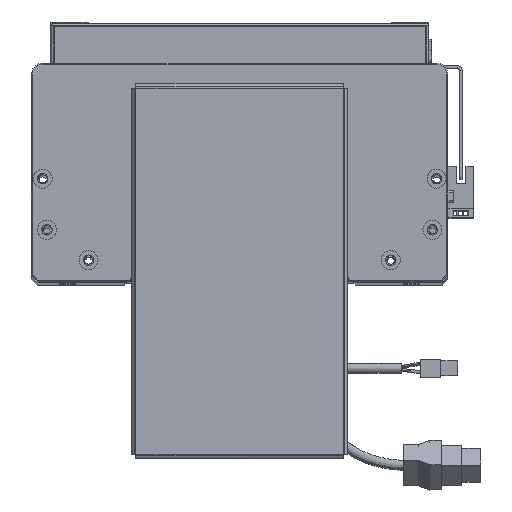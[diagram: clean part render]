
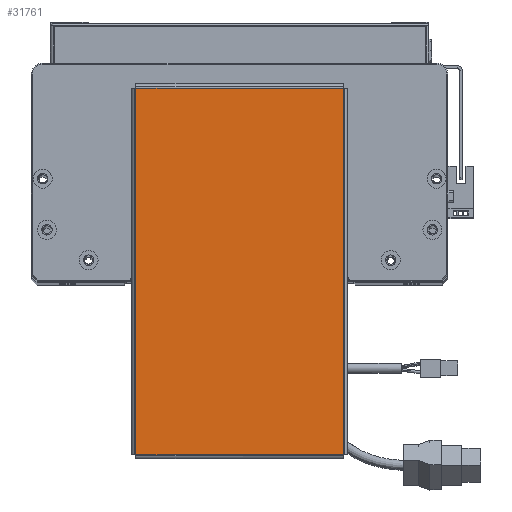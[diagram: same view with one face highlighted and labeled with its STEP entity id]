
A CAD part, top view. The second image highlights one B-rep face of the part: STEP entity #31761.
In plain terms, the highlighted planar face has unit normal (0, 0, 1).
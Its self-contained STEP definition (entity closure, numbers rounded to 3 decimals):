
#774 = PLANE ( 'NONE',  #42458 ) ;
#1608 = CARTESIAN_POINT ( 'NONE',  ( 96.763, -54.793, 0. ) ) ;
#1907 = VERTEX_POINT ( 'NONE', #57150 ) ;
#2406 = ORIENTED_EDGE ( 'NONE', *, *, #3737, .T. ) ;
#3737 = EDGE_CURVE ( 'NONE', #34910, #1907, #38906, .T. ) ;
#4618 = VERTEX_POINT ( 'NONE', #55571 ) ;
#5792 = CARTESIAN_POINT ( 'NONE',  ( 0., 0., 0. ) ) ;
#6522 = VERTEX_POINT ( 'NONE', #60758 ) ;
#9792 = DIRECTION ( 'NONE',  ( 0., -1., 0. ) ) ;
#10631 = DIRECTION ( 'NONE',  ( 0., 0., 1. ) ) ;
#12190 = LINE ( 'NONE', #19362, #27809 ) ;
#12631 = CARTESIAN_POINT ( 'NONE',  ( -96.793, -54.763, 0. ) ) ;
#13272 = VECTOR ( 'NONE', #26972, 1000. ) ;
#15600 = EDGE_CURVE ( 'NONE', #6522, #34910, #23187, .T. ) ;
#16008 = EDGE_CURVE ( 'NONE', #4618, #6522, #12190, .T. ) ;
#19362 = CARTESIAN_POINT ( 'NONE',  ( 96.793, 54.763, 0. ) ) ;
#19842 = EDGE_LOOP ( 'NONE', ( #2406, #47085, #49514, #58158 ) ) ;
#23187 = LINE ( 'NONE', #34737, #52313 ) ;
#26972 = DIRECTION ( 'NONE',  ( 0., 1., 0. ) ) ;
#27809 = VECTOR ( 'NONE', #54705, 1000. ) ;
#27876 = VECTOR ( 'NONE', #37599, 1000. ) ;
#30526 = CARTESIAN_POINT ( 'NONE',  ( -96.763, -54.763, 0. ) ) ;
#31761 = ADVANCED_FACE ( 'NONE', ( #52365 ), #774, .T. ) ;
#34737 = CARTESIAN_POINT ( 'NONE',  ( -96.763, 54.793, 0. ) ) ;
#34910 = VERTEX_POINT ( 'NONE', #30526 ) ;
#37599 = DIRECTION ( 'NONE',  ( 1., 0., 0. ) ) ;
#38360 = LINE ( 'NONE', #1608, #13272 ) ;
#38906 = LINE ( 'NONE', #12631, #27876 ) ;
#40839 = DIRECTION ( 'NONE',  ( 1., 0., 0. ) ) ;
#42458 = AXIS2_PLACEMENT_3D ( 'NONE', #5792, #10631, #40839 ) ;
#46170 = EDGE_CURVE ( 'NONE', #1907, #4618, #38360, .T. ) ;
#47085 = ORIENTED_EDGE ( 'NONE', *, *, #46170, .T. ) ;
#49514 = ORIENTED_EDGE ( 'NONE', *, *, #16008, .T. ) ;
#52313 = VECTOR ( 'NONE', #9792, 1000. ) ;
#52365 = FACE_OUTER_BOUND ( 'NONE', #19842, .T. ) ;
#54705 = DIRECTION ( 'NONE',  ( -1., 0., 0. ) ) ;
#55571 = CARTESIAN_POINT ( 'NONE',  ( 96.763, 54.763, 0. ) ) ;
#57150 = CARTESIAN_POINT ( 'NONE',  ( 96.763, -54.763, 0. ) ) ;
#58158 = ORIENTED_EDGE ( 'NONE', *, *, #15600, .T. ) ;
#60758 = CARTESIAN_POINT ( 'NONE',  ( -96.763, 54.763, 0. ) ) ;
